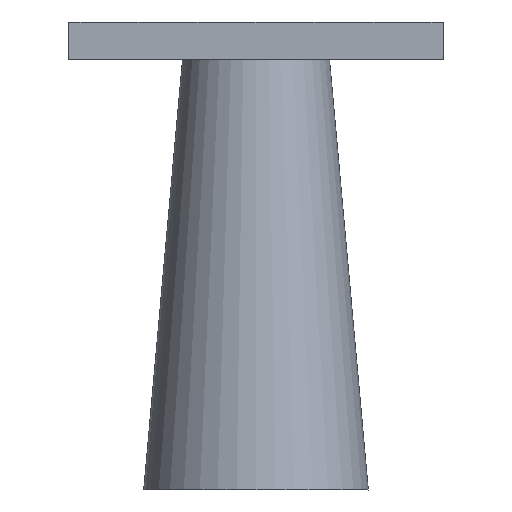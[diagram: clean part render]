
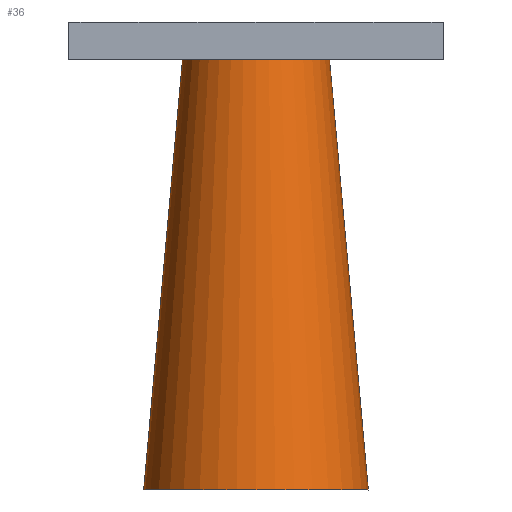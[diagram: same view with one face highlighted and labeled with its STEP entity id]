
A CAD part, front view. The second image highlights one B-rep face of the part: STEP entity #36.
In plain terms, the highlighted free-form (B-spline) face has degree [2, 1] with [5, 2] control points.
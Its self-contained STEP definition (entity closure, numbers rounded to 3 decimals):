
#11=(
BOUNDED_CURVE()
B_SPLINE_CURVE(1,(#6554,#6555),.UNSPECIFIED.,.F.,.F.)
B_SPLINE_CURVE_WITH_KNOTS((2,2),(1007.71,1340.355),
 .UNSPECIFIED.)
CURVE()
GEOMETRIC_REPRESENTATION_ITEM()
RATIONAL_B_SPLINE_CURVE((1.,1.))
REPRESENTATION_ITEM('')
);
#14=(
BOUNDED_CURVE()
B_SPLINE_CURVE(1,(#6572,#6573),.UNSPECIFIED.,.F.,.F.)
B_SPLINE_CURVE_WITH_KNOTS((2,2),(1007.71,1340.355),
 .UNSPECIFIED.)
CURVE()
GEOMETRIC_REPRESENTATION_ITEM()
RATIONAL_B_SPLINE_CURVE((1.,1.))
REPRESENTATION_ITEM('')
);
#36=ADVANCED_FACE('',(#62),#374,.T.);
#62=FACE_OUTER_BOUND('',#88,.T.);
#88=EDGE_LOOP('',(#166,#167,#168,#169));
#166=ORIENTED_EDGE('',*,*,#251,.T.);
#167=ORIENTED_EDGE('',*,*,#246,.F.);
#168=ORIENTED_EDGE('',*,*,#244,.F.);
#169=ORIENTED_EDGE('',*,*,#245,.T.);
#244=EDGE_CURVE('',#359,#358,#11,.T.);
#245=EDGE_CURVE('',#359,#361,#308,.T.);
#246=EDGE_CURVE('',#358,#360,#309,.T.);
#251=EDGE_CURVE('',#361,#360,#14,.T.);
#308=TRIMMED_CURVE($,#326,(#6557),(#6558),.T.,.CARTESIAN.);
#309=TRIMMED_CURVE($,#327,(#6560),(#6561),.T.,.CARTESIAN.);
#326=CIRCLE('',#502,75.);
#327=CIRCLE('',#503,120.);
#358=VERTEX_POINT('',#6546);
#359=VERTEX_POINT('',#6547);
#360=VERTEX_POINT('',#6548);
#361=VERTEX_POINT('',#6549);
#374=(
BOUNDED_SURFACE()
B_SPLINE_SURFACE(2,1,((#6522,#6523),(#6524,#6525),(#6526,#6527),(#6528,
#6529),(#6530,#6531)),.UNSPECIFIED.,.F.,.F.,.F.)
B_SPLINE_SURFACE_WITH_KNOTS((3,2,3),(2,2),(0.,219.247,438.494),
(1007.71,1340.355),.UNSPECIFIED.)
GEOMETRIC_REPRESENTATION_ITEM()
RATIONAL_B_SPLINE_SURFACE(((1.,1.),(0.707,0.707),
(1.,1.),(0.707,0.707),(1.,1.)))
REPRESENTATION_ITEM('')
SURFACE()
);
#502=AXIS2_PLACEMENT_3D($,#6556,#549,#550);
#503=AXIS2_PLACEMENT_3D($,#6559,#551,#552);
#549=DIRECTION('',(0.,0.,-1.));
#550=DIRECTION('',(1.,0.,0.));
#551=DIRECTION('',(0.,0.,-1.));
#552=DIRECTION('',(1.,0.,0.));
#6522=CARTESIAN_POINT('',(75.,0.,500.));
#6523=CARTESIAN_POINT('',(120.,0.,0.));
#6524=CARTESIAN_POINT('',(75.,-75.,500.));
#6525=CARTESIAN_POINT('',(120.,-120.,0.));
#6526=CARTESIAN_POINT('',(0.,-75.,500.));
#6527=CARTESIAN_POINT('',(0.,-120.,0.));
#6528=CARTESIAN_POINT('',(-75.,-75.,500.));
#6529=CARTESIAN_POINT('',(-120.,-120.,0.));
#6530=CARTESIAN_POINT('',(-75.,0.,500.));
#6531=CARTESIAN_POINT('',(-120.,0.,0.));
#6546=CARTESIAN_POINT('',(120.,0.,0.));
#6547=CARTESIAN_POINT('',(75.,0.,500.));
#6548=CARTESIAN_POINT('',(-120.,0.,0.));
#6549=CARTESIAN_POINT('',(-75.,0.,500.));
#6554=CARTESIAN_POINT('',(75.,0.,500.));
#6555=CARTESIAN_POINT('',(120.,0.,0.));
#6556=CARTESIAN_POINT('',(0.,0.,500.));
#6557=CARTESIAN_POINT('',(75.,0.,500.));
#6558=CARTESIAN_POINT('',(-75.,0.,500.));
#6559=CARTESIAN_POINT('',(0.,0.,0.));
#6560=CARTESIAN_POINT('',(120.,0.,0.));
#6561=CARTESIAN_POINT('',(-120.,0.,0.));
#6572=CARTESIAN_POINT('',(-75.,0.,500.));
#6573=CARTESIAN_POINT('',(-120.,0.,0.));
